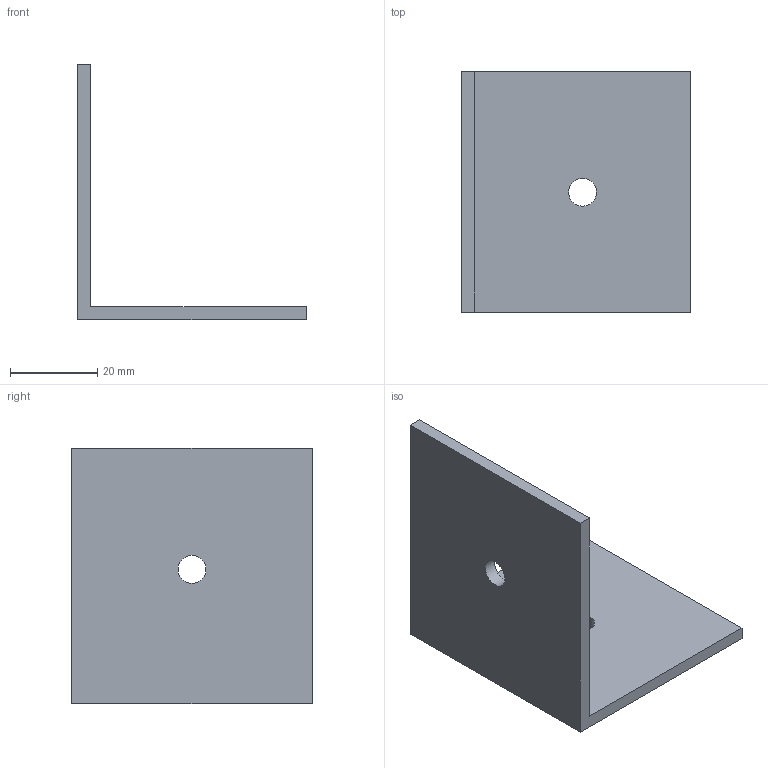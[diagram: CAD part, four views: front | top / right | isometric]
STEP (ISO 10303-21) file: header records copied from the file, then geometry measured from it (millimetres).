
FILE_DESCRIPTION(('Mechanical CAD reference from nasji.com'),'2;1');
FILE_NAME('NASJI.step','',(''),(''),'','NASJI distribution','');
FILE_SCHEMA(('AUTOMOTIVE_DESIGN { 1 0 10303 214 1 1 1 1 }'));
Length unit declared in the file: millimetre
Products named in the file (1): Open CASCADE STEP translator 7.8 142
Bounding box: 52.36 x 55 x 58.5 mm (x, y, z)
Volume: 17603.9 mm3; surface area: 12833.7 mm2
Topology: 1 solids, 1 shells, 10 faces, 24 edges, 16 vertices
Faces by surface type: plane 8, cylinder 2
Full cylindrical faces by diameter (mm): 6.4 x2
Entity records: 626 total; most frequent: CARTESIAN_POINT 113, DIRECTION 94, LINE 62, VECTOR 62, ORIENTED_EDGE 48, PCURVE 48, DEFINITIONAL_REPRESENTATION 48, EDGE_CURVE 24
